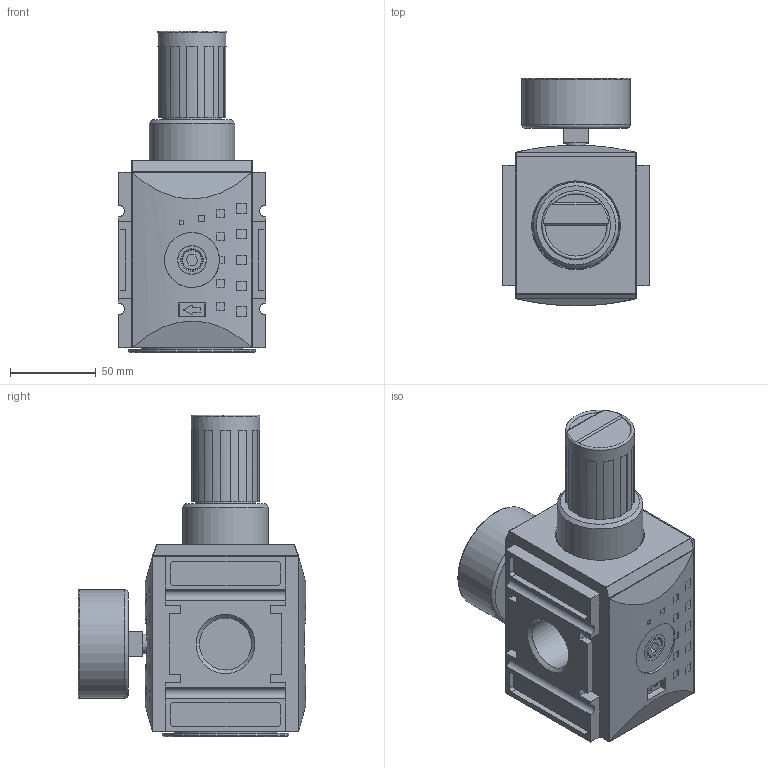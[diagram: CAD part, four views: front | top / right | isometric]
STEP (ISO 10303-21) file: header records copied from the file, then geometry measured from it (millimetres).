
FILE_DESCRIPTION((''),'2;1');
FILE_NAME('K:\ZEICHNG\Kunden Modelle\FUTURA Steps\BG4\KREG-41 G.stp','2010-11-10T10:03:18',('DDruske'),(''),'Autodesk Inventor 2009','Autodesk Inventor 2009','');
FILE_SCHEMA(('AUTOMOTIVE_DESIGN { 1 0 10303 214 1 1 1 1 }'));
Length unit declared in the file: millimetre
Products named in the file (1): Bauteil6
Bounding box: 85 x 132.25 x 187.1 mm (x, y, z)
Volume: 919653.8 mm3; surface area: 99386.9 mm2
Topology: 1 solids, 2 shells, 478 faces, 1219 edges, 785 vertices
Faces by surface type: plane 259, cylinder 127, bspline 65, torus 12, sphere 8, cone 7
Full cylindrical faces by diameter (mm): 11.45 x1, 12 x1, 16.5 x2, 30.291 x1, 32 x2, 35 x1, 40 x1, 50 x1, 57 x1, 60 x1, 63 x1, 74 x1
Entity records: 15126 total; most frequent: CARTESIAN_POINT 3121, ORIENTED_EDGE 2350, DIRECTION 2341, EDGE_CURVE 1175, VECTOR 789, LINE 789, VERTEX_POINT 780, AXIS2_PLACEMENT_3D 776
